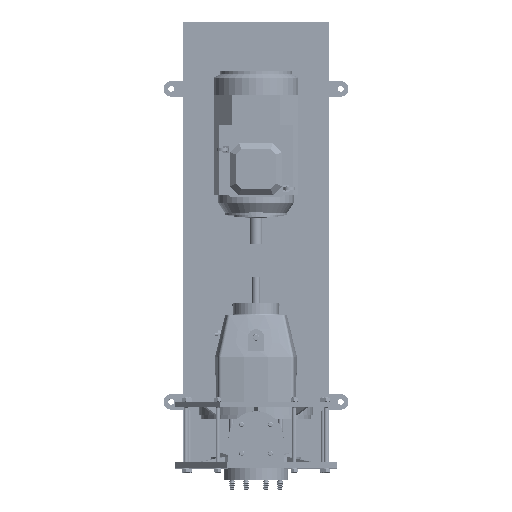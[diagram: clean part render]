
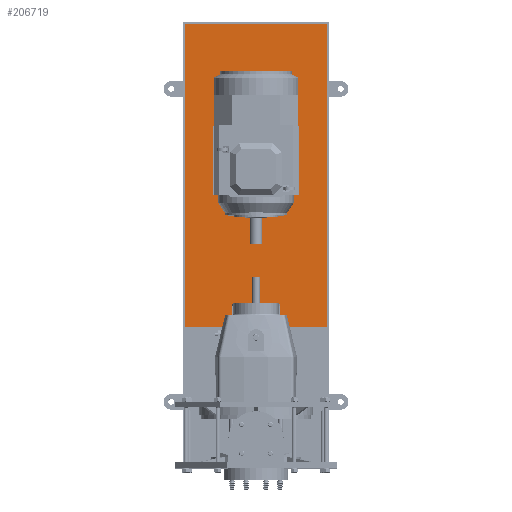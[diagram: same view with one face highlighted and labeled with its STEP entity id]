
A CAD part, top view. The second image highlights one B-rep face of the part: STEP entity #206719.
In plain terms, the highlighted planar face has unit normal (0, 0, 1).
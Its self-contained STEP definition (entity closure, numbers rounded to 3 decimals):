
#206654=CARTESIAN_POINT('',(217.5,446.0,-215.0));
#206655=VERTEX_POINT('',#206654);
#206656=CARTESIAN_POINT('',(-217.5,446.0,-215.0));
#206657=VERTEX_POINT('',#206656);
#206658=CARTESIAN_POINT('',(217.5,446.0,-215.0));
#206659=DIRECTION('',(-1.0,0.0,0.0));
#206660=VECTOR('',#206659,435.);
#206661=LINE('',#206658,#206660);
#206662=EDGE_CURVE('',#206655,#206657,#206661,.T.);
#206689=CARTESIAN_POINT('',(0.,913.5,-215.0));
#206690=DIRECTION('',(0.0,0.0,1.0));
#206691=DIRECTION('',(1.0,0.0,0.0));
#206692=AXIS2_PLACEMENT_3D('',#206689,#206690,#206691);
#206693=PLANE('',#206692);
#206694=CARTESIAN_POINT('',(-217.5,1381.0,-215.0));
#206695=VERTEX_POINT('',#206694);
#206696=CARTESIAN_POINT('',(217.5,1381.0,-215.0));
#206697=VERTEX_POINT('',#206696);
#206698=CARTESIAN_POINT('',(-217.5,1381.0,-215.0));
#206699=DIRECTION('',(1.0,0.0,0.0));
#206700=VECTOR('',#206699,435.0);
#206701=LINE('',#206698,#206700);
#206702=EDGE_CURVE('',#206695,#206697,#206701,.T.);
#206703=ORIENTED_EDGE('',*,*,#206702,.F.);
#206704=CARTESIAN_POINT('',(-217.5,446.0,-215.0));
#206705=DIRECTION('',(0.0,1.0,0.0));
#206706=VECTOR('',#206705,935.0);
#206707=LINE('',#206704,#206706);
#206708=EDGE_CURVE('',#206657,#206695,#206707,.T.);
#206709=ORIENTED_EDGE('',*,*,#206708,.F.);
#206710=ORIENTED_EDGE('',*,*,#206662,.F.);
#206711=CARTESIAN_POINT('',(217.5,1381.0,-215.0));
#206712=DIRECTION('',(0.0,-1.0,0.0));
#206713=VECTOR('',#206712,935.0);
#206714=LINE('',#206711,#206713);
#206715=EDGE_CURVE('',#206697,#206655,#206714,.T.);
#206716=ORIENTED_EDGE('',*,*,#206715,.F.);
#206717=EDGE_LOOP('',(#206703,#206709,#206710,#206716));
#206718=FACE_OUTER_BOUND('',#206717,.T.);
#206719=ADVANCED_FACE('',(#206718),#206693,.T.);
